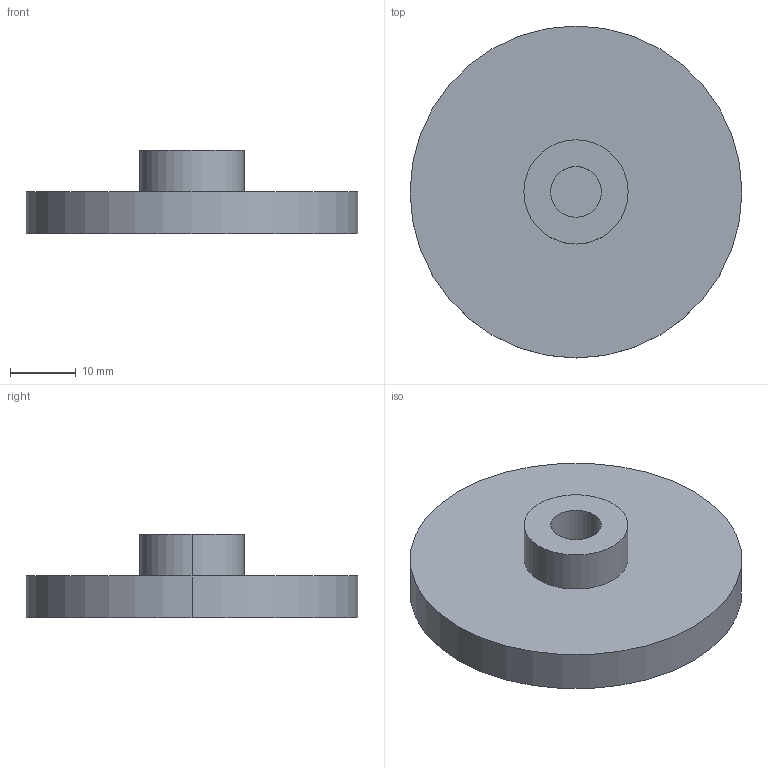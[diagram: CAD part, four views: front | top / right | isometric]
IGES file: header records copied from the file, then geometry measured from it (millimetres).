
Global section: file name: No Iges File Name specified; native system: Autodesk Inventor 2010; preprocessor: AutoDesk Inventor Iges Exporter R2010; author: mlampen; date: 20170420.135148; units: inch
Bounding box: 50.55 x 50.55 x 12.7 mm (x, y, z)
Volume: 13642 mm3; surface area: 5523.1 mm2
Topology: 1 solids, 1 shells, 10 faces, 18 edges, 12 vertices
Faces by surface type: cylinder 4, plane 4, revolution 2
